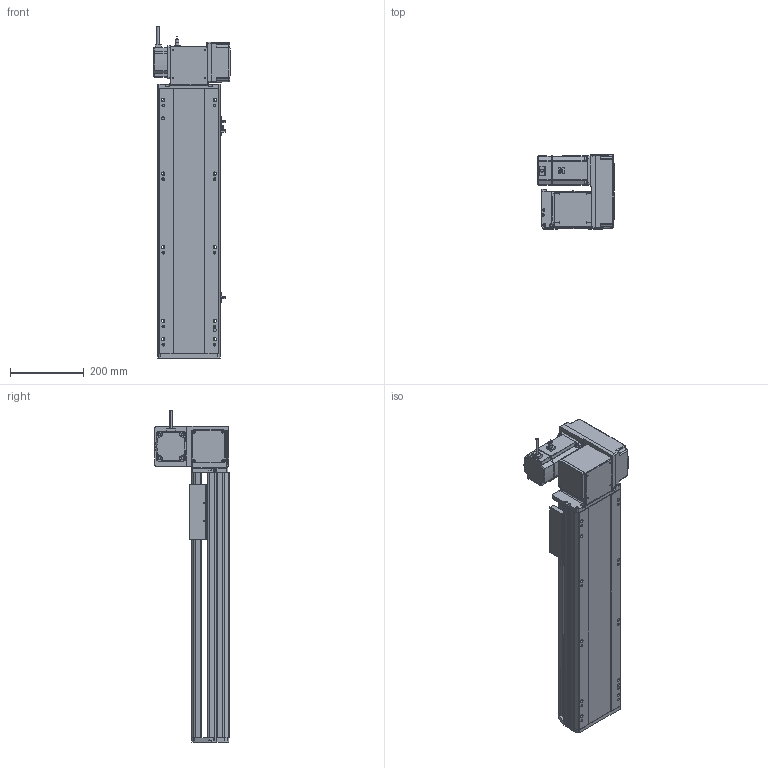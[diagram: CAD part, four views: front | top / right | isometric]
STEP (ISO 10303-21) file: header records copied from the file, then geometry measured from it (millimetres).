
FILE_DESCRIPTION (( 'STEP AP214' ), '1' );
FILE_NAME ('RTB17S-XX-450-RW-M75-C4.STEP', '2025-12-12T02:32:32', ( '' ), ( '' ), 'SwSTEP 2.0', 'SolidWorks 2018', '' );
FILE_SCHEMA (( 'AUTOMOTIVE_DESIGN' ));
Length unit declared in the file: millimetre
Products named in the file (15): RMP17S-L-014-T20-P75--々湍釱^RTB17S-RW-々湍釱蚾饜-750W_RTB17S-XX-XX-RW-M75-C4; RTB22S-GY-008-M75--萇儂啣^RTB17S-RW-々湍釱蚾饜-750W_RTB17S-XX-XX-RW-M75-C4; RTB17S-XX-450-RW-M75-C4; RTH13-BL-012覜茼え俋离^RTB17S-賑釱_RTB17S-XX-XX-RW-M75-C4; RTB17-R-011菁釱^RTB17S-XX-XX-RW-M75-C4; EE672^RTB17S-XX-XX-RW-M75-C4; RTB22S-GY-017P^RTB17S-RW-々湍釱蚾饜-750W_RTB17S-XX-XX-RW-M75-C4; RTB22S-GY-018P^RTB17S-RW-々湍釱蚾饜-750W_RTB17S-XX-XX-RW-M75-C4; RTB17S-L-004-賑釱^RTB17S-賑釱_RTB17S-XX-XX-RW-M75-C4; RTB17S-L-007奻裔^RTB17S-XX-XX-RW-M75-C4; RTB17S-RW-々湍釱蚾饜-750W^RTB17S-XX-XX-RW-M75-C4; RTB22S-GY-005P^RTB17S-RW-々湍釱蚾饜-750W_RTB17S-XX-XX-RW-M75-C4; 750W萇儂^RTB17S-XX-XX-RW-M75-C4; RTB17S-L-001-耜醱啣^RTB17S-XX-XX-RW-M75-C4; RTB17S-賑釱^RTB17S-XX-XX-RW-M75-C4
Assembly tree (17 placements, depth 3):
  RTB17S-XX-450-RW-M75-C4
    RTB17-R-011菁釱^RTB17S-XX-XX-RW-M75-C4
    EE672^RTB17S-XX-XX-RW-M75-C4  x3
    RTB17S-L-001-耜醱啣^RTB17S-XX-XX-RW-M75-C4
    RTB17S-賑釱^RTB17S-XX-XX-RW-M75-C4
      RTB17S-L-004-賑釱^RTB17S-賑釱_RTB17S-XX-XX-RW-M75-C4
      RTH13-BL-012覜茼え俋离^RTB17S-賑釱_RTB17S-XX-XX-RW-M75-C4
    RTB17S-L-007奻裔^RTB17S-XX-XX-RW-M75-C4
    750W萇儂^RTB17S-XX-XX-RW-M75-C4
    RTB17S-RW-々湍釱蚾饜-750W^RTB17S-XX-XX-RW-M75-C4
      RMP17S-L-014-T20-P75--々湍釱^RTB17S-RW-々湍釱蚾饜-750W_RTB17S-XX-XX-RW-M75-C4
      RTB22S-GY-005P^RTB17S-RW-々湍釱蚾饜-750W_RTB17S-XX-XX-RW-M75-C4
      RTB22S-GY-017P^RTB17S-RW-々湍釱蚾饜-750W_RTB17S-XX-XX-RW-M75-C4  x2
      RTB22S-GY-008-M75--萇儂啣^RTB17S-RW-々湍釱蚾饜-750W_RTB17S-XX-XX-RW-M75-C4
      RTB22S-GY-018P^RTB17S-RW-々湍釱蚾饜-750W_RTB17S-XX-XX-RW-M75-C4
Bounding box: 207.4 x 201.5 x 902.2 mm (x, y, z)
Volume: 8757759.5 mm3; surface area: 1397136.6 mm2
Topology: 17 solids, 17 shells, 2057 faces, 5674 edges, 3662 vertices
Faces by surface type: plane 966, cylinder 675, bspline 294, cone 110, sphere 8, torus 4
Entity records: 56566 total; most frequent: CARTESIAN_POINT 16538, ORIENTED_EDGE 8192, DIRECTION 7682, EDGE_CURVE 4096, AXIS2_PLACEMENT_3D 2682, VERTEX_POINT 2666, LINE 2318, VECTOR 2318
